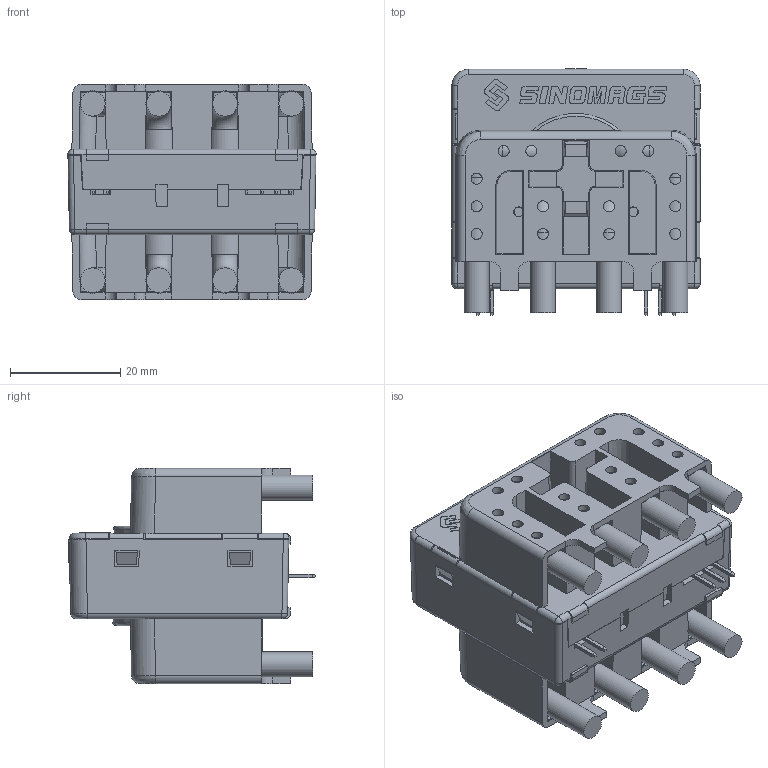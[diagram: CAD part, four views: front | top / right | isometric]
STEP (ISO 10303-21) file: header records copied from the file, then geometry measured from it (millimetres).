
FILE_DESCRIPTION(/* description */ (''),/* implementation_level */ '2;1');
FILE_NAME(/* name */ 'SFG-1.0P-S1.stp',/* time_stamp */ '2021-11-03T18:46:12+08:00',/* author */ (''),/* organization */ (''),/* preprocessor_version */ 'ST-DEVELOPER v15',/* originating_system */ 'SIEMENS PLM Software NX 8.5',/* authorisation */ '');
FILE_SCHEMA (('AUTOMOTIVE_DESIGN { 1 0 10303 214 3 1 1 1 }'));
Length unit declared in the file: millimetre
Products named in the file (1): Admi05782227zsc3
Bounding box: 45 x 44.74 x 39 mm (x, y, z)
Volume: 38106.5 mm3; surface area: 34654.8 mm2
Topology: 1 solids, 4 shells, 1391 faces, 4078 edges, 2618 vertices
Faces by surface type: plane 855, cylinder 278, bspline 112, torus 89, cone 48, sphere 8, extrusion 1
Full cylindrical faces by diameter (mm): 1.6 x2, 2 x28, 3 x2, 4.5 x12, 6.5 x2
Entity records: 50808 total; most frequent: CARTESIAN_POINT 14916, ORIENTED_EDGE 7856, DIRECTION 6988, EDGE_CURVE 3928, VECTOR 2566, LINE 2565, VERTEX_POINT 2558, AXIS2_PLACEMENT_3D 2211
